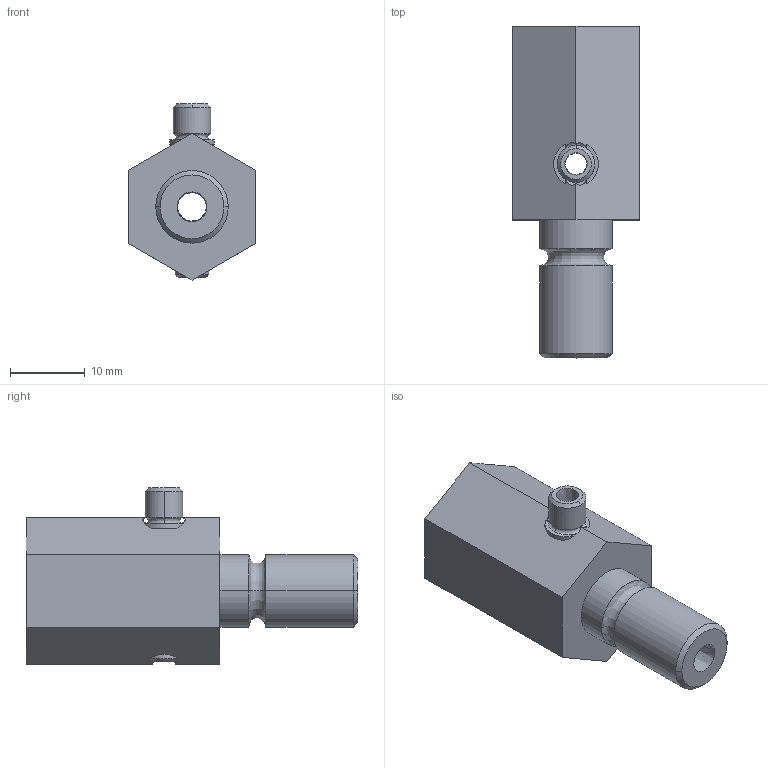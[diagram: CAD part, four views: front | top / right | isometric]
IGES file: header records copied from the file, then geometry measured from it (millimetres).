
Start section:  PTC IGES file: D:\Tpo v2\SharedFS\Outgoing\ejecto-raccord2ejr17l1804000 .igs
Global section: file name: D:\Tpo v2\SharedFS\Outgoing\ejecto-raccord2ejr17l1804000.igs; native system:  by Parametric Technology Corporation; preprocessor: 2004280; organization: Unknown; date: 080307.092145; units: millimetre
Bounding box: 17 x 44.5 x 23.61 mm (x, y, z)
Volume: 6024.9 mm3; surface area: 3678.2 mm2
Topology: 1 solids, 1 shells, 49 faces, 132 edges, 82 vertices
Faces by surface type: revolution 32, bspline 17
